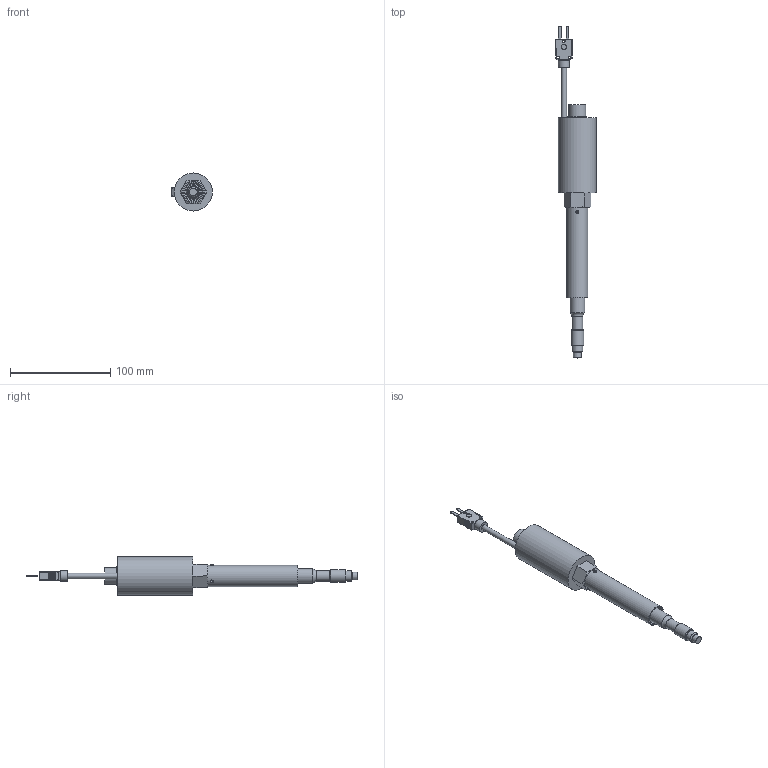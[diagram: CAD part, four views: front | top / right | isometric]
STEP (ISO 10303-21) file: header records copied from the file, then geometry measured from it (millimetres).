
FILE_DESCRIPTION (( 'STEP AP203' ), '1' );
FILE_NAME ('YICZ200PUB-1(0).STEP', '2023-08-08T10:17:19', ( '' ), ( '' ), 'SwSTEP 2.0', 'SolidWorks 2021', '' );
FILE_SCHEMA (( 'CONFIG_CONTROL_DESIGN' ));
Length unit declared in the file: millimetre
Products named in the file (1): YICZ200PUB-1(0)
Bounding box: 40.75 x 331.5 x 38 mm (x, y, z)
Volume: 132333.8 mm3; surface area: 33582.7 mm2
Topology: 3 solids, 4 shells, 186 faces, 416 edges, 253 vertices
Faces by surface type: plane 81, cylinder 73, cone 19, sphere 12, torus 1
Full cylindrical faces by diameter (mm): 2.6 x3, 3 x6, 4 x1, 5.4 x1, 5.5 x1, 7.8 x1, 10.5 x1, 10.7 x1, 11 x1, 12.7 x1, 14.6 x3, 16.9 x2, 17 x2, 19 x1, 21 x1, 38 x1
Entity records: 5309 total; most frequent: CARTESIAN_POINT 1331, DIRECTION 814, ORIENTED_EDGE 722, EDGE_CURVE 361, AXIS2_PLACEMENT_3D 316, EDGE_LOOP 258, VERTEX_POINT 247, FACE_OUTER_BOUND 214
